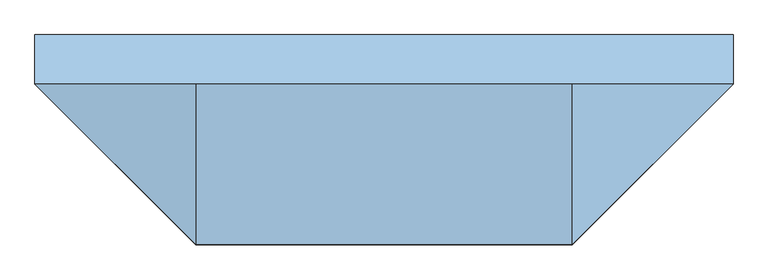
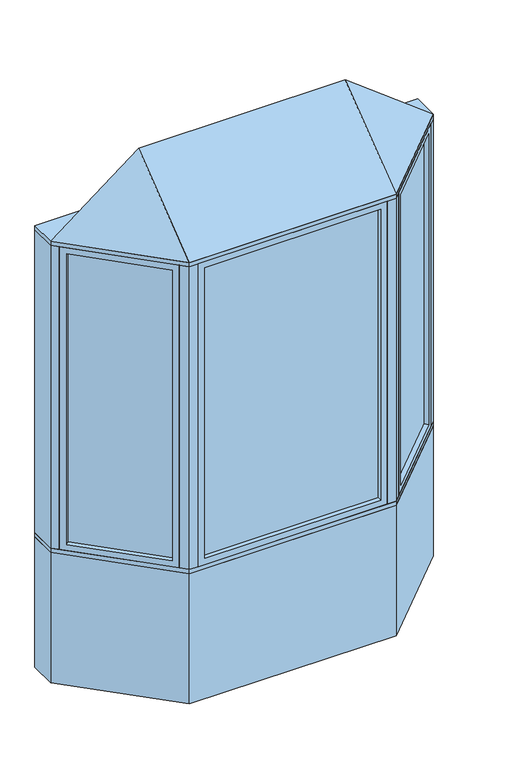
"""IFC4 building model written with IfcOpenShell, lengths in millimetres: window geometry, Pollard_Windows_Tudor Casement Bows and Bays : AML-BAY 45 AFR0618-10-600."""

from ifc_helpers import new_model, si_unit, frame, origin, origin_with_axes, place, context, project, spatial, polyline, outline, extrude, faceted_brep, source, transform, mapped, element, save


def window_687f70c3(model_context):
    return source(origin(), model_context, "Body", "SolidModel", [
        extrude(outline(polyline([(1010.5964271, -104.763169), (614.974814, -500.3847822), (611.3827115, -496.7926797), (1007.0043247, -101.1710666), (1010.5964271, -104.763169)])), frame((0.0, 0.0, 823.1628), z_axis=(0.0, 0.0, 1.0), x_axis=(1.0, 0.0, 0.0)), (0.0, 0.0, 1.0), 1753.6704),
        faceted_brep([(1001.616171, -113.7434252, 835.8628), (1019.5766833, -131.7039374, 835.8628), (1019.5766833, -131.7039374, 2564.1332), (1001.616171, -113.7434252, 2564.1332), (1007.0043247, -101.1710666, 823.1628), (1010.5964271, -104.763169, 823.1628), (1010.5964271, -104.763169, 2576.8332), (1007.0043247, -101.1710666, 2576.8332), (980.0635563, -92.1908105, 835.8628), (998.0240686, -110.1513227, 835.8628), (998.0240686, -110.1513227, 2564.1332), (980.0635563, -92.1908105, 2564.1332), (1044.9369265, -106.3436941, 799.998), (1005.4237996, -66.8305672, 799.998), (1005.4237996, -66.8305672, 2599.998), (1044.9369265, -106.3436941, 2599.998), (641.9155823, -509.3650383, 2564.1332), (623.9550701, -491.4045261, 2564.1332), (614.974814, -500.3847822, 2576.8332), (611.3827115, -496.7926797, 2576.8332), (620.3629677, -487.8124236, 2564.1332), (602.4024554, -469.8519114, 2564.1332), (577.0422121, -495.2121547, 2599.998), (616.5553391, -534.7252816, 2599.998), (641.9155823, -509.3650383, 835.8628), (623.9550701, -491.4045261, 835.8628), (614.974814, -500.3847822, 823.1628), (611.3827115, -496.7926797, 823.1628), (620.3629677, -487.8124236, 835.8628), (602.4024554, -469.8519114, 835.8628), (577.0422121, -495.2121547, 799.998), (616.5553391, -534.7252816, 799.998)], [[[0, 1, 2, 3]], [[4, 5, 6, 7]], [[8, 9, 10, 11]], [[12, 13, 14, 15]], [[3, 2, 16, 17]], [[7, 6, 18, 19]], [[11, 10, 20, 21]], [[15, 14, 22, 23]], [[17, 16, 24, 25]], [[19, 18, 26, 27]], [[21, 20, 28, 29]], [[23, 22, 30, 31]], [[25, 24, 1, 0]], [[5, 26, 18, 6], [3, 17, 25, 0]], [[27, 26, 5, 4]], [[7, 19, 27, 4], [9, 28, 20, 10]], [[29, 28, 9, 8]], [[13, 30, 22, 14], [11, 21, 29, 8]], [[31, 30, 13, 12]], [[15, 23, 31, 12], [1, 24, 16, 2]]]),
        extrude(outline(polyline([(-614.974814, -500.3847822), (-1010.5964271, -104.763169), (-1007.0043247, -101.1710666), (-611.3827115, -496.7926797), (-614.974814, -500.3847822)])), frame((0.0, 0.0, 823.1628), z_axis=(0.0, 0.0, 1.0), x_axis=(1.0, 0.0, 0.0)), (0.0, 0.0, 1.0), 1753.6704),
        faceted_brep([(-620.3629677, -487.8124236, 2564.1332), (-602.4024554, -469.8519114, 2564.1332), (-602.4024554, -469.8519114, 835.8628), (-620.3629677, -487.8124236, 835.8628), (-614.974814, -500.3847822, 2576.8332), (-611.3827115, -496.7926797, 2576.8332), (-611.3827115, -496.7926797, 823.1628), (-614.974814, -500.3847822, 823.1628), (-641.9155823, -509.3650383, 2564.1332), (-623.9550701, -491.4045261, 2564.1332), (-623.9550701, -491.4045261, 835.8628), (-641.9155823, -509.3650383, 835.8628), (-577.0422121, -495.2121547, 2599.998), (-616.5553391, -534.7252816, 2599.998), (-616.5553391, -534.7252816, 799.998), (-577.0422121, -495.2121547, 799.998), (-980.0635563, -92.1908105, 835.8628), (-998.0240686, -110.1513227, 835.8628), (-1007.0043247, -101.1710666, 823.1628), (-1010.5964271, -104.763169, 823.1628), (-1001.616171, -113.7434252, 835.8628), (-1019.5766833, -131.7039374, 835.8628), (-1044.9369265, -106.3436941, 799.998), (-1005.4237996, -66.8305672, 799.998), (-980.0635563, -92.1908105, 2564.1332), (-998.0240686, -110.1513227, 2564.1332), (-1007.0043247, -101.1710666, 2576.8332), (-1010.5964271, -104.763169, 2576.8332), (-1001.616171, -113.7434252, 2564.1332), (-1019.5766833, -131.7039374, 2564.1332), (-1044.9369265, -106.3436941, 2599.998), (-1005.4237996, -66.8305672, 2599.998)], [[[0, 1, 2, 3]], [[4, 5, 6, 7]], [[8, 9, 10, 11]], [[12, 13, 14, 15]], [[3, 2, 16, 17]], [[7, 6, 18, 19]], [[11, 10, 20, 21]], [[15, 14, 22, 23]], [[17, 16, 24, 25]], [[19, 18, 26, 27]], [[21, 20, 28, 29]], [[23, 22, 30, 31]], [[15, 23, 31, 12], [1, 24, 16, 2]], [[25, 24, 1, 0]], [[5, 26, 18, 6], [3, 17, 25, 0]], [[27, 26, 5, 4]], [[7, 19, 27, 4], [9, 28, 20, 10]], [[29, 28, 9, 8]], [[13, 30, 22, 14], [11, 21, 29, 8]], [[31, 30, 13, 12]]]),
        extrude(outline(polyline([(508.0352, -544.6806207), (-508.0352, -544.6806207), (-508.0352, -539.6006207), (508.0352, -539.6006207), (508.0352, -544.6806207)])), frame((0.0, 0.0, 823.1628), z_axis=(0.0, 0.0, 1.0), x_axis=(1.0, 0.0, 0.0)), (0.0, 0.0, 1.0), 1753.6704),
        faceted_brep([(495.3352, -544.6806207, 835.8628), (495.3352, -570.0806207, 835.8628), (495.3352, -570.0806207, 2564.1332), (495.3352, -544.6806207, 2564.1332), (508.0352, -539.6006207, 823.1628), (508.0352, -544.6806207, 823.1628), (508.0352, -544.6806207, 2576.8332), (508.0352, -539.6006207, 2576.8332), (495.3352, -514.2006207, 835.8628), (495.3352, -539.6006207, 835.8628), (495.3352, -539.6006207, 2564.1332), (495.3352, -514.2006207, 2564.1332), (531.2, -570.0806207, 799.998), (531.2, -514.2006207, 799.998), (531.2, -514.2006207, 2599.998), (531.2, -570.0806207, 2599.998), (-495.3352, -570.0806207, 2564.1332), (-495.3352, -544.6806207, 2564.1332), (-508.0352, -544.6806207, 2576.8332), (-508.0352, -539.6006207, 2576.8332), (-495.3352, -539.6006207, 2564.1332), (-495.3352, -514.2006207, 2564.1332), (-531.2, -514.2006207, 2599.998), (-531.2, -570.0806207, 2599.998), (-495.3352, -570.0806207, 835.8628), (-495.3352, -544.6806207, 835.8628), (-508.0352, -544.6806207, 823.1628), (-508.0352, -539.6006207, 823.1628), (-495.3352, -539.6006207, 835.8628), (-495.3352, -514.2006207, 835.8628), (-531.2, -514.2006207, 799.998), (-531.2, -570.0806207, 799.998)], [[[0, 1, 2, 3]], [[4, 5, 6, 7]], [[8, 9, 10, 11]], [[12, 13, 14, 15]], [[3, 2, 16, 17]], [[7, 6, 18, 19]], [[11, 10, 20, 21]], [[15, 14, 22, 23]], [[17, 16, 24, 25]], [[19, 18, 26, 27]], [[21, 20, 28, 29]], [[23, 22, 30, 31]], [[15, 23, 31, 12], [1, 24, 16, 2]], [[25, 24, 1, 0]], [[5, 26, 18, 6], [3, 17, 25, 0]], [[27, 26, 5, 4]], [[7, 19, 27, 4], [9, 28, 20, 10]], [[29, 28, 9, 8]], [[13, 30, 22, 14], [11, 21, 29, 8]], [[31, 30, 13, 12]]]),
        faceted_brep([(1076.5, -74.7806207, 2625.398), (581.2, -570.0806207, 2625.398), (-581.2, -570.0806207, 2625.398), (-1076.5, -74.7806207, 2625.398), (-581.2, -74.7806207, 3006.398), (581.2, -74.7806207, 3006.398)], [[[0, 1, 2, 3]], [[3, 2, 4]], [[2, 1, 5, 4]], [[1, 0, 5]], [[0, 3, 4, 5]]]),
        extrude(outline(polyline([(-1076.5, 77.6193793), (1076.5, 77.6193793), (1076.5, -74.7806207), (581.2, -570.0806207), (-581.2, -570.0806207), (-1076.5, -74.7806207), (-1076.5, 77.6193793)])), frame((0.0, 0.0, 2599.998), z_axis=(0.0, 0.0, 1.0), x_axis=(1.0, 0.0, 0.0)), (0.0, 0.0, 1.0), 25.4),
        extrude(outline(polyline([(-1076.5, -74.7806207), (-1076.5, 77.6193793), (-1013.3738531, 77.6193793), (-1013.3738531, -74.7806207), (-1044.9369265, -106.3436941), (-1076.5, -74.7806207)])), frame((0.0, 0.0, 799.998), z_axis=(0.0, 0.0, 1.0), x_axis=(1.0, 0.0, 0.0)), (0.0, 0.0, 1.0), 1800.0),
        extrude(outline(polyline([(1076.5, 77.6193793), (1076.5, -74.7806207), (1044.9369265, -106.3436941), (1013.3738531, -74.7806207), (1013.3738531, 77.6193793), (1076.5, 77.6193793)])), frame((0.0, 0.0, 799.998), z_axis=(0.0, 0.0, 1.0), x_axis=(1.0, 0.0, 0.0)), (0.0, 0.0, 1.0), 1800.0),
        extrude(outline(polyline([(581.2, -570.0806207), (531.2, -570.0806207), (531.2, -520.0806207), (560.4893219, -520.0806207), (581.2, -499.3699425), (616.5553391, -534.7252816), (581.2, -570.0806207)])), frame((0.0, 0.0, 799.998), z_axis=(0.0, 0.0, 1.0), x_axis=(1.0, 0.0, 0.0)), (0.0, 0.0, 1.0), 1800.0),
        extrude(outline(polyline([(-581.2, -570.0806207), (-616.5553391, -534.7252816), (-581.2, -499.3699425), (-560.4893219, -520.0806207), (-531.2, -520.0806207), (-531.2, -570.0806207), (-581.2, -570.0806207)])), frame((0.0, 0.0, 799.998), z_axis=(0.0, 0.0, 1.0), x_axis=(1.0, 0.0, 0.0)), (0.0, 0.0, 1.0), 1800.0),
        extrude(outline(polyline([(-581.2, -570.0806207), (-1076.5, -74.7806207), (-1076.5, 77.6193793), (-1013.3738531, 77.6193793), (-518.0738531, -417.6806207), (518.0738531, -417.6806207), (1013.3738531, 77.6193793), (1076.5, 77.6193793), (1076.5, -74.7806207), (581.2, -570.0806207), (-581.2, -570.0806207)])), frame((0.0, 0.0, 774.598), z_axis=(0.0, 0.0, 1.0), x_axis=(1.0, 0.0, 0.0)), (0.0, 0.0, 1.0), 25.4),
        extrude(outline(polyline([(-1076.5, -74.7806207), (-1076.5, 77.6193793), (-1013.3738531, 77.6193793), (-518.0738531, -417.6806207), (518.0738531, -417.6806207), (1013.3738531, 77.6193793), (1076.5, 77.6193793), (1076.5, -74.7806207), (581.2, -570.0806207), (-581.2, -570.0806207), (-1076.5, -74.7806207)])), origin_with_axes(), (0.0, 0.0, 1.0), 774.598),
    ])


if __name__ == "__main__":
    model = new_model("IFC4")
    model_context = context("Model", 3, world=origin())
    ifc_project = project(units=[si_unit("LENGTHUNIT", "METRE", prefix="MILLI")], contexts=[model_context])
    site = spatial("IfcSite", under=ifc_project)
    building = spatial("IfcBuilding", under=site)
    placement = place(None, origin())
    window_shape = window_687f70c3(model_context)
    element("IfcWindow", 1, ObjectType="Pollard_Windows_Tudor Casement Bows and Bays : AML-BAY 45 AFR0618-10-600", at=placement, inside=building, context=model_context, shape_type="MappedRepresentation", body=[
        mapped(window_shape, transform((0.0, 0.0, 0.0), x_axis=(1.0, 0.0, 0.0), y_axis=(0.0, 1.0, 0.0), z_axis=(0.0, 0.0, 1.0))),
    ])
    save(model, "model.ifc")
